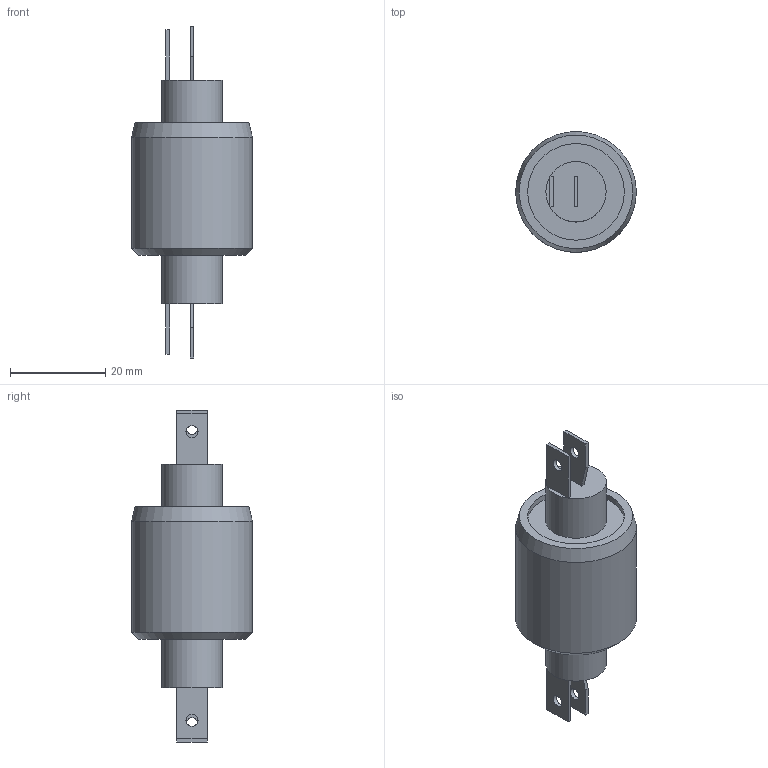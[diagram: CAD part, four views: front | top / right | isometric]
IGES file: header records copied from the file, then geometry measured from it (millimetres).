
Global section: file name: No Iges File Name specified; native system: AutoDesk Inventor R6.0; preprocessor: AutoDesk Inventor Iges Exporter R6.0; author: No Author specified; organization: No Organization specified; date: 20080103.172110; units: inch
Bounding box: 25.4 x 25.4 x 69.85 mm (x, y, z)
Surface area: 4602.5 mm2 (no closed solid volume)
Topology: 0 solids, 0 shells, 39 faces, 170 edges, 160 vertices
Faces by surface type: plane 17, bspline 14, revolution 8
